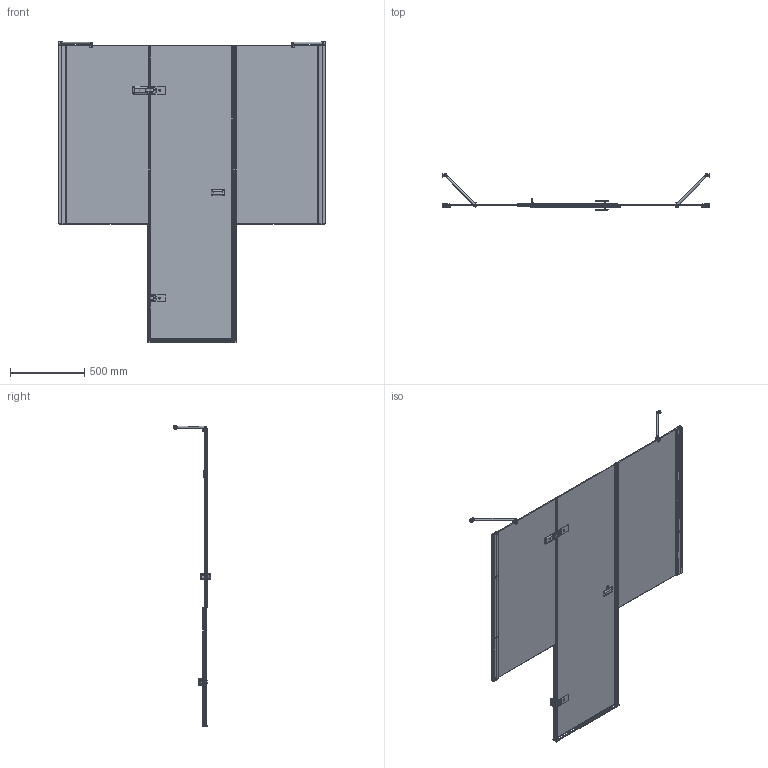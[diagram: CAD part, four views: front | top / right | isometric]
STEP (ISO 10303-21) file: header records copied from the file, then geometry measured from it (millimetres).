
FILE_DESCRIPTION(/* description */ ('Стенка задняя'),/* implementation_level */ '2;1');
FILE_NAME(/* name */ 'D:\Работа\Сергей\Душевые кабинки\! Работа\! 31\TREND DOOR GK-863-50PTWO\TREND DOOR GK-863-50PTWO левая модель\TREND DOOR GK-863-50PTWO ЛЕВАЯ (3D для рендера).stp',/* time_stamp */ '2019-05-09T08:12:17+03:00',/* author */ ('User'),/* organization */ (''),/* preprocessor_version */ 'ST-DEVELOPER v15.2',/* originating_system */ 'Autodesk Inventor 2014',/* authorisation */ '');
FILE_SCHEMA (('CONFIG_CONTROL_DESIGN'));
Length unit declared in the file: millimetre
Products named in the file (69): Стекло.02 (P) TR; Стекло.03 (0) TR; Стекло.02 (P-5) TR; CH26-1 P1; CH26-1 P7; CH25-1 P2; CH25-1 P3; CH26-1 P8; CH27-1_2; CH26-1 P2; CH26-1 P3; CH26-1 P4; CH26-1 P5; CH26-1 P6; CH26-0 P13; CH26-0 P14; CH26-0 P15; CH26-0 P11; CH26-0 P12; CH27-0 P1; CH27-0 P3; CH27-0-P2; CH27-1_1; M180-6; Магнит_180; М180-6; UP600M6.01; PR-10-SLK; 07-003; CH20-004; CH21-001; CH21-002; CH21-003; ISO 4026 - M5 x 5ISO; 113; UP603М8.03; STB-12-3-001; STB-3 P2; STB-3 P3; STB-3 P6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
Bounding box: 1800 x 249.9 x 2031.5 mm (x, y, z)
Volume: 20447574.8 mm3; surface area: 7465369.1 mm2
Topology: 127 solids, 127 shells, 2202 faces, 5516 edges, 3576 vertices
Faces by surface type: plane 1284, cylinder 635, cone 172, bspline 61, torus 39, sphere 11
Full cylindrical faces by diameter (mm): 1.5 x6, 2.459 x2, 3 x4, 3.242 x6, 4 x19, 4.1 x1, 4.134 x6, 4.5 x3, 4.917 x9, 5 x8, 5.2 x2, 5.4 x2, 5.54 x2, 6 x27, 6.5 x6, 6.647 x2, 7.2 x4, 8 x12, 8.2 x4, 8.5 x2, 9 x8, 10 x7, 11 x5, 11.34 x10, 12 x16, 12.5 x2, 13 x11, 15 x2, 16 x3, 16.5 x2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
Entity records: 48819 total; most frequent: CARTESIAN_POINT 10629, DIRECTION 7859, ORIENTED_EDGE 7350, EDGE_CURVE 3675, AXIS2_PLACEMENT_3D 2712, VERTEX_POINT 2500, LINE 2435, VECTOR 2435
